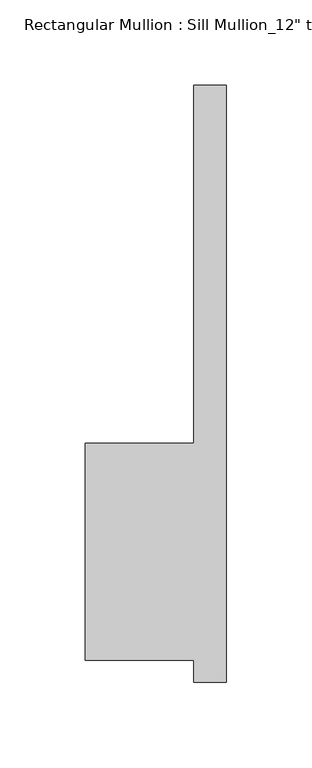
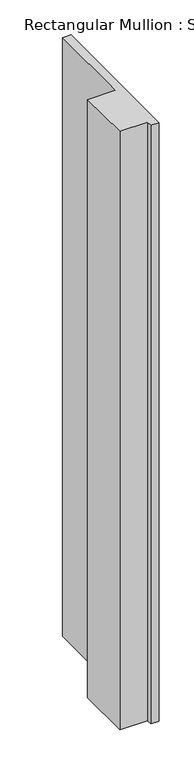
"""IFC4 building model written with IfcOpenShell, lengths in millimetres: member geometry."""

from ifc_helpers import new_model, si_unit, frame, origin, place, context, project, spatial, polyline, outline, extrude, source, transform, mapped, element, save


def member_d3b29a63(model_context):
    return source(origin(), model_context, "Body", "SweptSolid", [
        extrude(outline(polyline([(-82.55, 50.8), (-19.05, 50.8), (-19.05, 260.35), (0.0, 260.35), (0.0, -88.9), (-19.05, -88.9), (-19.05, -76.2), (-82.55, -76.2), (-82.55, 50.8)])), frame((0.0, 0.0, -1443.8923077), z_axis=(0.0, 0.0, 1.0), x_axis=(1.0, 0.0, 0.0)), (0.0, 0.0, 1.0), 1443.8923077),
    ])


if __name__ == "__main__":
    model = new_model("IFC4")
    model_context = context("Model", 3, world=origin())
    ifc_project = project(units=[si_unit("LENGTHUNIT", "METRE", prefix="MILLI")], contexts=[model_context])
    site = spatial("IfcSite", under=ifc_project)
    building = spatial("IfcBuilding", under=site)
    placement = place(None, origin())
    member_shape = member_d3b29a63(model_context)
    element("IfcMember", 1, ObjectType="Rectangular Mullion : Sill Mullion_12\" thick wall", at=placement, inside=building, context=model_context, shape_type="MappedRepresentation", body=[
        mapped(member_shape, transform((0.0, 0.0, 0.0), x_axis=(1.0, 0.0, 0.0), y_axis=(0.0, 1.0, 0.0), z_axis=(0.0, 0.0, 1.0))),
    ])
    save(model, "model.ifc")
